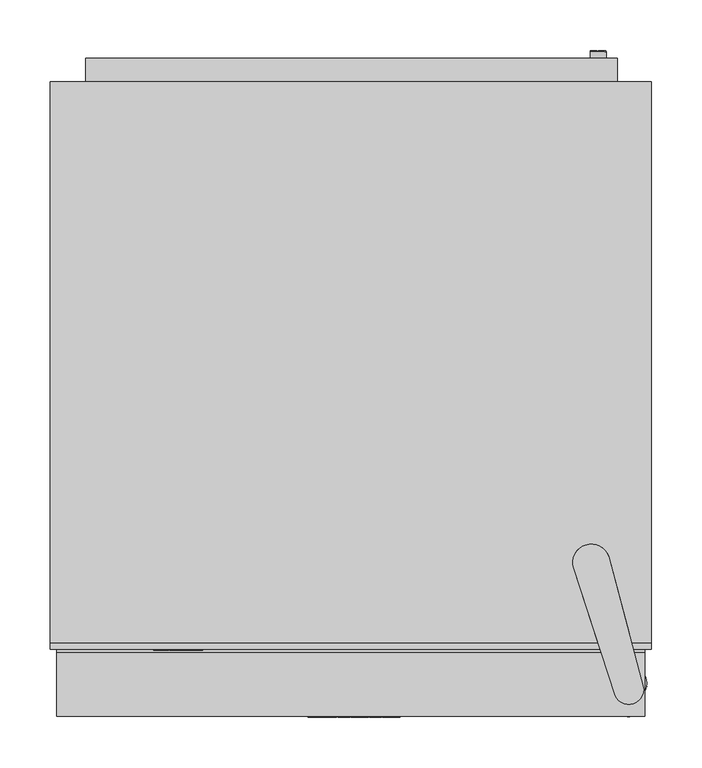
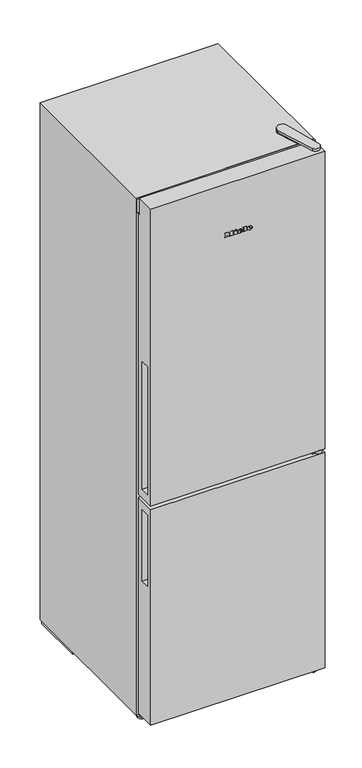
"""IFC4 building model written with IfcOpenShell, lengths in millimetres: proxy geometry, 12108900_OER_KD4172E_EL : 38417251_OER_12108900_KD4172E_EL."""

from ifc_helpers import new_model, si_unit, point, frame, frame_2d, origin, origin_with_axes, place, context, project, spatial, polyline, circle_curve, ellipse_curve, trimmed, segment, composite_curve, outline, extrude, faceted_brep, source, transform, mapped, element, save
from ifc_brep_helpers import plane_surface, cylinder_surface, revolved_surface, extruded_surface, advanced_brep


def specialty_equipment_52cad4d4(model_context):
    return source(origin(), model_context, "Body", "SolidModel", [
        advanced_brep(
        [(38.73, -654.0, 1668.515), (38.73, -654.0, 1670.03), (48.765, -654.0, 1670.03), (31.305, -654.0, 1670.03), (35.43, -654.0, 1664.96), (48.51, -654.0, 1668.515), (43.98, -654.0, 1668.515), (40.41, -654.0, 1666.835), (38.73, -654.0, 1671.95), (38.73, -654.0, 1673.585), (41.295, -654.0, 1673.585), (41.295, -654.0, 1671.95), (38.73, -653.0, 1668.515), (40.41, -653.0, 1666.835), (43.98, -653.0, 1668.515), (48.51, -653.0, 1668.515), (35.43, -653.0, 1664.96), (31.305, -653.0, 1670.03), (48.765, -653.0, 1670.03), (38.73, -653.0, 1670.03), (38.73, -653.0, 1671.95), (41.295, -653.0, 1671.95), (41.295, -653.0, 1673.585), (38.73, -653.0, 1673.585)],
        [
            (0, 1),
            (1, 2),
            (2, 3, ellipse_curve(frame((40.035, -654.0, 1670.03), z_axis=(0.0, -1.0, 0.0), x_axis=(-1.0, 0.0, 0.0)), 8.73, 7.215)),
            (3, 4, circle_curve(frame((37.1100818, -654.0, 1670.54), z_axis=(0.0, -1.0, 0.0), x_axis=(0.0, 0.0, -1.0)), 5.8274415)),
            (4, 5, circle_curve(frame((39.860238, -654.0, 1674.5), z_axis=(0.0, -1.0, 0.0), x_axis=(0.0, 0.0, -1.0)), 10.5184889)),
            (5, 6),
            (6, 7, circle_curve(frame((41.1432353, -654.0, 1669.91), z_axis=(0.0, 1.0, 0.0), x_axis=(0.0, 0.0, -1.0)), 3.1612116)),
            (7, 0, circle_curve(frame((40.41, -654.0, 1668.515), z_axis=(0.0, 1.0, 0.0), x_axis=(0.0, 0.0, -1.0)), 1.68)),
            (8, 9),
            (9, 10, circle_curve(frame((40.0125, -654.0, 1673.585), z_axis=(0.0, 1.0, 0.0), x_axis=(0.0, 0.0, -1.0)), 1.2825)),
            (10, 11),
            (11, 8),
            (12, 13, circle_curve(frame((40.41, -653.0, 1668.515), z_axis=(0.0, -1.0, 0.0), x_axis=(0.0, 0.0, -1.0)), 1.68)),
            (13, 14, circle_curve(frame((41.1432353, -653.0, 1669.91), z_axis=(0.0, -1.0, 0.0), x_axis=(0.0, 0.0, -1.0)), 3.1612116)),
            (14, 15),
            (15, 16, circle_curve(frame((39.860238, -653.0, 1674.5), z_axis=(0.0, 1.0, 0.0), x_axis=(0.0, 0.0, -1.0)), 10.5184889)),
            (16, 17, circle_curve(frame((37.1100818, -653.0, 1670.54), z_axis=(0.0, 1.0, 0.0), x_axis=(0.0, 0.0, -1.0)), 5.8274415)),
            (17, 18, ellipse_curve(frame((40.035, -653.0, 1670.03), z_axis=(0.0, 1.0, 0.0), x_axis=(-1.0, 0.0, 0.0)), 8.73, 7.215)),
            (18, 19),
            (19, 12),
            (20, 21),
            (21, 22),
            (22, 23, circle_curve(frame((40.0125, -653.0, 1673.585), z_axis=(0.0, -1.0, 0.0), x_axis=(0.0, 0.0, -1.0)), 1.2825)),
            (23, 20),
            (0, 12),
            (19, 1),
            (18, 2),
            (5, 15),
            (14, 6),
            (17, 3),
            (13, 7),
            (16, 4),
            (8, 20),
            (23, 9),
            (22, 10),
            (21, 11),
        ],
        [
            plane_surface(frame((38.73, -654.0, 1670.03), z_axis=(0.0, -1.0, 0.0), x_axis=(0.0, 0.0, 1.0))),
            plane_surface(frame((38.73, -653.0, 1670.03), z_axis=(0.0, 1.0, 0.0), x_axis=(0.0, 0.0, -1.0))),
            plane_surface(frame((38.73, -654.0, 1668.515), z_axis=(1.0, 0.0, 0.0), x_axis=(0.0, 1.0, 0.0))),
            plane_surface(frame((38.73, -654.0, 1670.03), z_axis=(0.0, 0.0, -1.0), x_axis=(0.0, 1.0, 0.0))),
            plane_surface(frame((48.51, -654.0, 1668.515), z_axis=(0.0, 0.0, 1.0), x_axis=(0.0, 1.0, 0.0))),
            extruded_surface(trimmed(ellipse_curve(frame((40.035, -652.0, 1670.03), z_axis=(0.0, -1.0, 0.0), x_axis=(-1.0, 0.0, 0.0)), 8.73, 7.215), [point((48.765, -652.0, 1670.03))], [point((31.305, -652.0, 1670.03))], True, "CARTESIAN"), (0.0, -1.0, 0.0), 1.0),
            revolved_surface(polyline([(41.1432353, -653.0, 1666.7487884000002), (41.1432353, -654.0, 1666.7487884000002)]), (41.1432353, -653.0, 1669.91), (0.0, 1.0, 0.0)),
            revolved_surface(polyline([(40.41, -653.0, 1666.835), (40.41, -654.0, 1666.835)]), (40.41, -653.0, 1668.515), (0.0, 1.0, 0.0)),
            cylinder_surface(frame((37.1100818, -653.0, 1670.54), z_axis=(0.0, -1.0, 0.0), x_axis=(0.0, 0.0, -1.0)), 5.8274415),
            cylinder_surface(frame((39.860238, -653.0, 1674.5), z_axis=(0.0, -1.0, 0.0), x_axis=(0.0, 0.0, -1.0)), 10.5184889),
            plane_surface(frame((38.73, -654.0, 1671.95), z_axis=(1.0, 0.0, 0.0), x_axis=(0.0, 1.0, 0.0))),
            revolved_surface(polyline([(40.0125, -653.0, 1672.3025), (40.0125, -654.0, 1672.3025)]), (40.0125, -653.0, 1673.585), (0.0, 1.0, 0.0)),
            plane_surface(frame((41.295, -654.0, 1673.585), z_axis=(-1.0, 0.0, 0.0), x_axis=(0.0, 1.0, 0.0))),
            plane_surface(frame((41.295, -654.0, 1671.95), z_axis=(0.0, 0.0, 1.0), x_axis=(0.0, 1.0, 0.0))),
        ],
        [
            (0, [[1, 2, 3, 4, 5, 6, 7, 8], [9, 10, 11, 12]]),
            (1, [[13, 14, 15, 16, 17, 18, 19, 20], [21, 22, 23, 24]]),
            (2, [[-1, 25, -20, 26]]),
            (3, [[-2, -26, -19, 27]]),
            (4, [[-6, 28, -15, 29]]),
            (5, [[-3, -27, -18, 30]]),
            (6, [[-7, -29, -14, 31]]),
            (7, [[-8, -31, -13, -25]]),
            (8, [[-4, -30, -17, 32]]),
            (9, [[-5, -32, -16, -28]]),
            (10, [[-9, 33, -24, 34]]),
            (11, [[-10, -34, -23, 35]]),
            (12, [[-11, -35, -22, 36]]),
            (13, [[-12, -36, -21, -33]]),
        ],
    ),
        advanced_brep(
        [(7.425, -654.0, 1668.515), (7.425, -654.0, 1670.03), (17.46, -654.0, 1670.03), (0.0, -654.0, 1670.03), (4.125, -654.0, 1664.96), (17.205, -654.0, 1668.515), (12.675, -654.0, 1668.515), (9.105, -654.0, 1666.835), (7.425, -654.0, 1671.95), (7.425, -654.0, 1673.585), (9.99, -654.0, 1673.585), (9.99, -654.0, 1671.95), (7.425, -653.0, 1668.515), (9.105, -653.0, 1666.835), (12.675, -653.0, 1668.515), (17.205, -653.0, 1668.515), (4.125, -653.0, 1664.96), (0.0, -653.0, 1670.03), (17.46, -653.0, 1670.03), (7.425, -653.0, 1670.03), (7.425, -653.0, 1671.95), (9.99, -653.0, 1671.95), (9.99, -653.0, 1673.585), (7.425, -653.0, 1673.585)],
        [
            (0, 1),
            (1, 2),
            (2, 3, ellipse_curve(frame((8.73, -654.0, 1670.03), z_axis=(0.0, -1.0, 0.0), x_axis=(-1.0, 0.0, 0.0)), 8.73, 7.215)),
            (3, 4, circle_curve(frame((5.8050818, -654.0, 1670.54), z_axis=(0.0, -1.0, 0.0), x_axis=(0.0, 0.0, -1.0)), 5.8274415)),
            (4, 5, circle_curve(frame((8.555238, -654.0, 1674.5), z_axis=(0.0, -1.0, 0.0), x_axis=(0.0, 0.0, -1.0)), 10.5184889)),
            (5, 6),
            (6, 7, circle_curve(frame((9.8382353, -654.0, 1669.91), z_axis=(0.0, 1.0, 0.0), x_axis=(0.0, 0.0, -1.0)), 3.1612116)),
            (7, 0, circle_curve(frame((9.105, -654.0, 1668.515), z_axis=(0.0, 1.0, 0.0), x_axis=(0.0, 0.0, -1.0)), 1.68)),
            (8, 9),
            (9, 10, circle_curve(frame((8.7075, -654.0, 1673.585), z_axis=(0.0, 1.0, 0.0), x_axis=(0.0, 0.0, -1.0)), 1.2825)),
            (10, 11),
            (11, 8),
            (12, 13, circle_curve(frame((9.105, -653.0, 1668.515), z_axis=(0.0, -1.0, 0.0), x_axis=(0.0, 0.0, -1.0)), 1.68)),
            (13, 14, circle_curve(frame((9.8382353, -653.0, 1669.91), z_axis=(0.0, -1.0, 0.0), x_axis=(0.0, 0.0, -1.0)), 3.1612116)),
            (14, 15),
            (15, 16, circle_curve(frame((8.555238, -653.0, 1674.5), z_axis=(0.0, 1.0, 0.0), x_axis=(0.0, 0.0, -1.0)), 10.5184889)),
            (16, 17, circle_curve(frame((5.8050818, -653.0, 1670.54), z_axis=(0.0, 1.0, 0.0), x_axis=(0.0, 0.0, -1.0)), 5.8274415)),
            (17, 18, ellipse_curve(frame((8.73, -653.0, 1670.03), z_axis=(0.0, 1.0, 0.0), x_axis=(-1.0, 0.0, 0.0)), 8.73, 7.215)),
            (18, 19),
            (19, 12),
            (20, 21),
            (21, 22),
            (22, 23, circle_curve(frame((8.7075, -653.0, 1673.585), z_axis=(0.0, -1.0, 0.0), x_axis=(0.0, 0.0, -1.0)), 1.2825)),
            (23, 20),
            (0, 12),
            (19, 1),
            (18, 2),
            (5, 15),
            (14, 6),
            (17, 3),
            (13, 7),
            (16, 4),
            (8, 20),
            (23, 9),
            (22, 10),
            (21, 11),
        ],
        [
            plane_surface(frame((7.425, -654.0, 1670.03), z_axis=(0.0, -1.0, 0.0), x_axis=(0.0, 0.0, 1.0))),
            plane_surface(frame((7.425, -653.0, 1670.03), z_axis=(0.0, 1.0, 0.0), x_axis=(0.0, 0.0, -1.0))),
            plane_surface(frame((7.425, -654.0, 1668.515), z_axis=(1.0, 0.0, 0.0), x_axis=(0.0, 1.0, 0.0))),
            plane_surface(frame((7.425, -654.0, 1670.03), z_axis=(0.0, 0.0, -1.0), x_axis=(0.0, 1.0, 0.0))),
            plane_surface(frame((17.205, -654.0, 1668.515), z_axis=(0.0, 0.0, 1.0), x_axis=(0.0, 1.0, 0.0))),
            extruded_surface(trimmed(ellipse_curve(frame((8.73, -652.0, 1670.03), z_axis=(0.0, -1.0, 0.0), x_axis=(-1.0, 0.0, 0.0)), 8.73, 7.215), [point((17.46, -652.0, 1670.03))], [point((0.0, -652.0, 1670.03))], True, "CARTESIAN"), (0.0, -1.0, 0.0), 1.0),
            revolved_surface(polyline([(9.8382353, -653.0, 1666.7487884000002), (9.8382353, -654.0, 1666.7487884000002)]), (9.8382353, -653.0, 1669.91), (0.0, 1.0, 0.0)),
            revolved_surface(polyline([(9.105, -653.0, 1666.835), (9.105, -654.0, 1666.835)]), (9.105, -653.0, 1668.515), (0.0, 1.0, 0.0)),
            cylinder_surface(frame((5.8050818, -653.0, 1670.54), z_axis=(0.0, -1.0, 0.0), x_axis=(0.0, 0.0, -1.0)), 5.8274415),
            cylinder_surface(frame((8.555238, -653.0, 1674.5), z_axis=(0.0, -1.0, 0.0), x_axis=(0.0, 0.0, -1.0)), 10.5184889),
            plane_surface(frame((7.425, -654.0, 1671.95), z_axis=(1.0, 0.0, 0.0), x_axis=(0.0, 1.0, 0.0))),
            revolved_surface(polyline([(8.7075, -653.0, 1672.3025), (8.7075, -654.0, 1672.3025)]), (8.7075, -653.0, 1673.585), (0.0, 1.0, 0.0)),
            plane_surface(frame((9.99, -654.0, 1673.585), z_axis=(-1.0, 0.0, 0.0), x_axis=(0.0, 1.0, 0.0))),
            plane_surface(frame((9.99, -654.0, 1671.95), z_axis=(0.0, 0.0, 1.0), x_axis=(0.0, 1.0, 0.0))),
        ],
        [
            (0, [[1, 2, 3, 4, 5, 6, 7, 8], [9, 10, 11, 12]]),
            (1, [[13, 14, 15, 16, 17, 18, 19, 20], [21, 22, 23, 24]]),
            (2, [[-1, 25, -20, 26]]),
            (3, [[-2, -26, -19, 27]]),
            (4, [[-6, 28, -15, 29]]),
            (5, [[-3, -27, -18, 30]]),
            (6, [[-7, -29, -14, 31]]),
            (7, [[-8, -31, -13, -25]]),
            (8, [[-4, -30, -17, 32]]),
            (9, [[-5, -32, -16, -28]]),
            (10, [[-9, 33, -24, 34]]),
            (11, [[-10, -34, -23, 35]]),
            (12, [[-11, -35, -22, 36]]),
            (13, [[-12, -36, -21, -33]]),
        ],
    ),
        extrude(outline(polyline([(1679.075, -8.97), (1676.645, -7.83), (1679.015, -2.745), (1681.445, -3.87), (1679.075, -8.97)])), frame((0.0, -654.0, 0.0), z_axis=(0.0, 1.0, 0.0), x_axis=(0.0, 0.0, 1.0)), (0.0, 0.0, 1.0), 1.0),
        extrude(outline(polyline([(1676.315, -12.675), (1673.63, -12.675), (1673.63, -10.89), (1667.48, -10.89), (1667.48, -12.675), (1664.96, -12.675), (1664.96, -0.84), (1667.48, -0.84), (1667.48, -2.58), (1676.315, -2.58), (1676.315, -12.675)])), frame((0.0, -654.0, 0.0), z_axis=(0.0, 1.0, 0.0), x_axis=(0.0, 0.0, 1.0)), (0.0, 0.0, 1.0), 1.0),
        extrude(outline(polyline([(1677.515, 18.3), (1677.515, 20.1), (1667.48, 20.1), (1667.48, 18.3), (1664.96, 18.3), (1664.96, 30.465), (1667.48, 30.465), (1667.48, 28.62), (1679.96, 28.62), (1679.96, 18.3), (1677.515, 18.3)])), frame((0.0, -654.0, 0.0), z_axis=(0.0, 1.0, 0.0), x_axis=(0.0, 0.0, 1.0)), (0.0, 0.0, 1.0), 1.0),
        extrude(outline(polyline([(1677.515, -42.57), (1677.515, -40.755), (1667.48, -40.755), (1667.48, -42.57), (1664.96, -42.57), (1664.96, -35.97), (1667.48, -35.97), (1667.48, -37.77), (1673.8161247, -37.77), (1664.96, -31.065), (1674.1502223, -24.33), (1667.48, -24.33), (1667.48, -26.175), (1664.96, -26.175), (1664.96, -14.205), (1667.48, -14.205), (1667.48, -16.11), (1677.515, -16.11), (1677.515, -14.205), (1679.96, -14.205), (1679.96, -23.34), (1674.335, -27.72), (1679.96, -32.115), (1679.96, -42.57), (1677.515, -42.57)])), frame((0.0, -654.0, 0.0), z_axis=(0.0, 1.0, 0.0), x_axis=(0.0, 0.0, 1.0)), (0.0, 0.0, 1.0), 1.0),
        faceted_brep([(298.5, -23.0, 1850.0), (-298.5, -23.0, 1850.0), (-298.5, -580.0, 1850.0), (298.5, -580.0, 1850.0), (298.5, -23.0, 19.0), (298.5, -580.0, 19.0), (-298.5, -580.0, 19.0), (-298.5, -23.0, 19.0), (-234.0, -580.0, 1766.0), (234.0, -580.0, 1766.0), (234.0, -580.0, 827.0), (-234.0, -580.0, 827.0), (-234.0, -580.0, 733.0), (234.0, -580.0, 733.0), (234.0, -580.0, 109.0), (-234.0, -580.0, 109.0), (-234.0, -63.0, 1766.0), (234.0, -63.0, 1766.0), (234.0, -63.0, 827.0), (-234.0, -63.0, 827.0), (-234.0, -63.0, 733.0), (234.0, -63.0, 733.0), (234.0, -63.0, 109.0), (-234.0, -63.0, 109.0)], [[[0, 1, 2, 3]], [[4, 5, 6, 7]], [[1, 0, 4, 7]], [[2, 1, 7, 6]], [[3, 2, 6, 5], [8, 9, 10, 11], [12, 13, 14, 15]], [[0, 3, 5, 4]], [[16, 17, 9, 8]], [[18, 19, 11, 10]], [[17, 16, 19, 18]], [[19, 16, 8, 11]], [[17, 18, 10, 9]], [[20, 21, 13, 12]], [[22, 23, 15, 14]], [[21, 20, 23, 22]], [[23, 20, 12, 15]], [[21, 22, 14, 13]]]),
        extrude(outline(composite_curve([segment(polyline([(-56.420729, 6.1484915), (-39.9901847, 6.1484915)]), True, "CONTINUOUS"), segment(trimmed(circle_curve(frame_2d((-48.2054569, 8.6902384)), 8.5994869), [point((-39.9901847, 6.1484915))], [point((-56.420729, 6.1484915))], False, "CARTESIAN"), True, "CONTINUOUS")], self_intersect=False)), frame((264.4820102, 0.0, 0.0), z_axis=(1.0, 0.0, 0.0), x_axis=(0.0, 1.0, 0.0)), (0.0, 0.0, 1.0), 17.0656722),
        extrude(outline(composite_curve([segment(trimmed(circle_curve(frame_2d((-274.5, -569.6105025)), 7.4374754), [point((-281.9374754, -569.6105025))], [point((-267.0625246, -569.6105025))], False, "CARTESIAN"), True, "CONTINUOUS"), segment(trimmed(circle_curve(frame_2d((-274.5, -569.6105025)), 7.4374754), [point((-267.0625246, -569.6105025))], [point((-281.9374754, -569.6105025))], False, "CARTESIAN"), True, "CONTINUOUS")], self_intersect=False)), frame((0.0, 0.0, 6.1484915), z_axis=(0.0, 0.0, 1.0), x_axis=(1.0, 0.0, 0.0)), (0.0, 0.0, 1.0), 12.8515085),
        extrude(outline(composite_curve([segment(trimmed(circle_curve(frame_2d((-274.5, -569.7060517)), 12.797253), [point((-287.297253, -569.7060517))], [point((-261.702747, -569.7060517))], False, "CARTESIAN"), True, "CONTINUOUS"), segment(trimmed(circle_curve(frame_2d((-274.5, -569.7060517)), 12.797253), [point((-261.702747, -569.7060517))], [point((-287.297253, -569.7060517))], False, "CARTESIAN"), True, "CONTINUOUS")], self_intersect=False)), origin_with_axes(), (0.0, 0.0, 1.0), 6.1484915),
        extrude(outline(polyline([(298.5, -586.4996489), (-298.5, -586.4996489), (-298.5, -580.0), (298.5, -580.0), (298.5, -586.4996489)])), frame((0.0, 0.0, 1801.2229618), z_axis=(0.0, 0.0, 1.0), x_axis=(1.0, 0.0, 0.0)), (0.0, 0.0, 1.0), 48.7770382),
        extrude(outline(polyline([(277.7112582, -200.120515), (251.0987637, -200.120515), (251.0987637, -87.2190022), (277.7112582, -87.2190022), (277.7112582, -200.120515)])), origin_with_axes(), (0.0, 0.0, 1.0), 6.1484915),
        extrude(outline(polyline([(251.0987637, -26.8205259), (291.0987637, -26.8205259), (291.0987637, -206.6206354), (251.0987637, -206.6206354), (251.0987637, -26.8205259)])), frame((0.0, 0.0, 6.1484915), z_axis=(0.0, 0.0, 1.0), x_axis=(1.0, 0.0, 0.0)), (0.0, 0.0, 1.0), 12.8515085),
        extrude(outline(composite_curve([segment(polyline([(-56.420729, 6.1484915), (-39.9901847, 6.1484915)]), True, "CONTINUOUS"), segment(trimmed(circle_curve(frame_2d((-48.2054569, 8.6902384)), 8.5994869), [point((-39.9901847, 6.1484915))], [point((-56.420729, 6.1484915))], False, "CARTESIAN"), True, "CONTINUOUS")], self_intersect=False)), frame((-281.5476824, 0.0, 0.0), z_axis=(1.0, 0.0, 0.0), x_axis=(0.0, 1.0, 0.0)), (0.0, 0.0, 1.0), 17.0656722),
        extrude(outline(polyline([(-277.7112582, -200.120515), (-277.7112582, -87.2190022), (-252.7112582, -87.2190022), (-252.7112582, -200.120515), (-277.7112582, -200.120515)])), origin_with_axes(), (0.0, 0.0, 1.0), 6.1484915),
        extrude(outline(polyline([(-252.7112582, -26.8205259), (-252.7112582, -206.6206354), (-295.0984336, -206.6206354), (-295.0984336, -26.8205259), (-252.7112582, -26.8205259)])), frame((0.0, 0.0, 6.1484915), z_axis=(0.0, 0.0, 1.0), x_axis=(1.0, 0.0, 0.0)), (0.0, 0.0, 1.0), 12.8515085),
        extrude(outline(polyline([(244.9015664, -32.3201), (244.9015664, -206.6206354), (-245.4999985, -206.6206354), (-245.4999985, -32.3201), (244.9015664, -32.3201)])), frame((0.0, 0.0, 6.1484915), z_axis=(0.0, 0.0, 1.0), x_axis=(1.0, 0.0, 0.0)), (0.0, 0.0, 1.0), 12.8515085),
        extrude(outline(polyline([(264.8461624, -23.0), (-263.5, -23.0), (-263.5, 0.0), (264.8461624, 0.0), (264.8461624, -23.0)])), frame((0.0, 0.0, 231.5932438), z_axis=(0.0, 0.0, 1.0), x_axis=(1.0, 0.0, 0.0)), (0.0, 0.0, 1.0), 1494.4067562),
        extrude(outline(polyline([(168.0, 253.3772603), (178.045631, 253.3772603), (178.045631, 246.156963), (176.7899271, 246.156963), (176.7899271, 252.1215564), (173.8076304, 252.1215564), (173.8076304, 246.470889), (172.5519266, 246.470889), (172.5519266, 252.1215564), (169.2557039, 252.1215564), (169.2557039, 246.0), (168.0, 246.0), (168.0, 253.3772603)])), frame((0.0, 7.0, 0.0), z_axis=(0.0, 1.0, 0.0), x_axis=(0.0, 0.0, 1.0)), (0.0, 0.0, 1.0), 1.0),
        extrude(outline(polyline([(168.0, 244.1164442), (178.045631, 244.1164442), (178.045631, 242.8607403), (169.2557039, 242.8607403), (169.2557039, 237.8379248), (168.0, 237.8379248), (168.0, 244.1164442)])), frame((0.0, 7.0, 0.0), z_axis=(0.0, 1.0, 0.0), x_axis=(0.0, 0.0, 1.0)), (0.0, 0.0, 1.0), 1.0),
        extrude(outline(composite_curve([segment(trimmed(circle_curve(frame_2d((173.0, 246.0)), 8.0), [point((173.0, 238.0))], [point((173.0, 254.0))], False, "CARTESIAN"), True, "CONTINUOUS"), segment(trimmed(circle_curve(frame_2d((173.0, 246.0)), 8.0), [point((173.0, 254.0))], [point((173.0, 238.0))], False, "CARTESIAN"), True, "CONTINUOUS")], self_intersect=False)), frame((0.0, -23.0, 0.0), z_axis=(0.0, 1.0, 0.0), x_axis=(0.0, 0.0, 1.0)), (0.0, 0.0, 1.0), 30.0),
        extrude(outline(polyline([(255.1369404, -644.0500518), (255.1369404, -589.0), (292.0, -589.0), (292.0, -629.2312633), (263.6572781, -629.2312633), (263.6572781, -644.0500518), (255.1369404, -644.0500518)])), frame((0.0, 0.0, 788.0), z_axis=(0.0, 0.0, 1.0), x_axis=(1.0, 0.0, 0.0)), (0.0, 0.0, 1.0), 11.7998428),
        extrude(outline(composite_curve([segment(trimmed(circle_curve(frame_2d((276.0, -641.3479469)), 12.0), [point((264.0, -641.3479469))], [point((288.0, -641.3479469))], False, "CARTESIAN"), True, "CONTINUOUS"), segment(trimmed(circle_curve(frame_2d((276.0, -641.3479469)), 12.0), [point((288.0, -641.3479469))], [point((264.0, -641.3479469))], False, "CARTESIAN"), True, "CONTINUOUS")], self_intersect=False)), frame((0.0, 0.0, 788.0), z_axis=(0.0, 0.0, 1.0), x_axis=(1.0, 0.0, 0.0)), (0.0, 0.0, 1.0), 11.7998428),
        faceted_brep([(292.0, -653.0, 788.0), (-292.0, -653.0, 788.0), (-292.0, -653.0, 24.0), (292.0, -653.0, 24.0), (292.0, -580.0, 788.0), (292.0, -580.0, 24.0), (-292.0, -580.0, 24.0), (-292.0, -580.0, 788.0), (-292.0, -635.0, 758.0), (-292.0, -635.0, 506.0121804), (-292.0, -604.4897883, 506.0121804), (-292.0, -604.4897883, 758.0), (-268.2740132, -635.0, 758.0), (-268.2740132, -604.4897883, 758.0), (-268.2740132, -604.4897883, 506.0121804), (-268.2740132, -635.0, 506.0121804)], [[[0, 1, 2, 3]], [[4, 5, 6, 7]], [[1, 0, 4, 7]], [[2, 1, 7, 6], [8, 9, 10, 11]], [[3, 2, 6, 5]], [[0, 3, 5, 4]], [[12, 13, 14, 15]], [[12, 15, 9, 8]], [[15, 14, 10, 9]], [[14, 13, 11, 10]], [[13, 12, 8, 11]]]),
        extrude(outline(composite_curve([segment(trimmed(circle_curve(frame_2d((255.0, -586.0)), 13.0), [point((242.0, -586.0))], [point((268.0, -586.0))], False, "CARTESIAN"), True, "CONTINUOUS"), segment(trimmed(circle_curve(frame_2d((255.0, -586.0)), 13.0), [point((268.0, -586.0))], [point((242.0, -586.0))], False, "CARTESIAN"), True, "CONTINUOUS")], self_intersect=False)), origin_with_axes(), (0.0, 0.0, 1.0), 6.9998158),
        extrude(outline(composite_curve([segment(trimmed(circle_curve(frame_2d((276.9946442, -619.9124361)), 17.0), [point((259.9946442, -619.9124361))], [point((293.9946442, -619.9124361))], False, "CARTESIAN"), True, "CONTINUOUS"), segment(trimmed(circle_curve(frame_2d((276.9946442, -619.9124361)), 17.0), [point((293.9946442, -619.9124361))], [point((259.9946442, -619.9124361))], False, "CARTESIAN"), True, "CONTINUOUS")], self_intersect=False)), frame((0.0, 0.0, 18.8964761), z_axis=(0.0, 0.0, 1.0), x_axis=(1.0, 0.0, 0.0)), (0.0, 0.0, 1.0), 5.1035239),
        extrude(outline(polyline([(294.0677389, -623.5579978), (264.4272141, -637.8371511), (205.1568838, -531.0918017), (240.1598028, -511.6564392), (294.0677389, -623.5579978)])), frame((0.0, 0.0, 6.9998158), z_axis=(0.0, 0.0, 1.0), x_axis=(1.0, 0.0, 0.0)), (0.0, 0.0, 1.0), 11.8966603),
        extrude(outline(composite_curve([segment(polyline([(276.4367298, -571.0430426), (245.1616399, -579.2864892), (221.3582255, -506.2033511)]), True, "CONTINUOUS"), segment(trimmed(circle_curve(frame_2d((238.85062, -500.5060216)), 18.3968321), [point((221.3582255, -506.2033511))], [point((256.3428386, -494.8081519))], False, "CARTESIAN"), True, "CONTINUOUS"), segment(polyline([(256.3428386, -494.8081519), (276.4367298, -571.0430426)]), True, "CONTINUOUS")], self_intersect=False)), frame((0.0, 0.0, 1849.9998428), z_axis=(0.0, 0.0, 1.0), x_axis=(1.0, 0.0, 0.0)), (0.0, 0.0, 1.0), 2.8),
        extrude(outline(composite_curve([segment(polyline([(262.5128912, -632.5530567), (221.3582255, -506.2033511)]), True, "CONTINUOUS"), segment(trimmed(circle_curve(frame_2d((238.850532, -500.5057515)), 18.3968321), [point((221.3582255, -506.2033511))], [point((256.3428386, -494.8081519))], False, "CARTESIAN"), True, "CONTINUOUS"), segment(polyline([(256.3428386, -494.8081519), (291.0205136, -626.3729512)]), True, "CONTINUOUS"), segment(trimmed(circle_curve(frame_2d((276.0339956, -626.0831703)), 14.9893193), [point((291.0205136, -626.3729512))], [point((262.5128912, -632.5530567))], False, "CARTESIAN"), True, "CONTINUOUS")], self_intersect=False)), frame((0.0, 0.0, 1852.7998428), z_axis=(0.0, 0.0, 1.0), x_axis=(1.0, 0.0, 0.0)), (0.0, 0.0, 1.0), 9.2001572),
        extrude(outline(polyline([(292.0, -589.0), (162.9885295, -589.0), (162.9885295, -580.0), (292.0, -580.0), (292.0, -589.0)])), frame((0.0, 0.0, 788.0), z_axis=(0.0, 0.0, 1.0), x_axis=(1.0, 0.0, 0.0)), (0.0, 0.0, 1.0), 11.7998428),
        faceted_brep([(292.0, -653.0, 1852.7998428), (-292.0, -653.0, 1852.7998428), (-292.0, -653.0, 799.7998428), (292.0, -653.0, 799.7998428), (292.0, -580.0, 799.7998428), (-292.0, -580.0, 799.7998428), (-292.0, -580.0, 1796.7998428), (292.0, -580.0, 1796.7998428), (292.0, -589.8392038, 1852.7998428), (-292.0, -589.8392038, 1852.7998428), (-292.0, -589.8392038, 1796.7998428), (-292.0, -604.4876108, 831.0997411), (-292.0, -604.4876108, 1283.0), (-292.0, -635.0, 1283.0), (-292.0, -635.0, 831.0997411), (292.0, -589.8392038, 1796.7998428), (-268.2740132, -604.4876108, 831.0997411), (-268.2740132, -635.0, 831.0997411), (-268.2740132, -635.0, 1283.0), (-268.2740132, -604.4876108, 1283.0)], [[[0, 1, 2, 3]], [[4, 5, 6, 7]], [[1, 0, 8, 9]], [[2, 1, 9, 10, 6, 5], [11, 12, 13, 14]], [[3, 2, 5, 4]], [[0, 3, 4, 7, 15, 8]], [[15, 10, 9, 8]], [[10, 15, 7, 6]], [[16, 17, 18, 19]], [[16, 19, 12, 11]], [[19, 18, 13, 12]], [[18, 17, 14, 13]], [[17, 16, 11, 14]]]),
        advanced_brep(
        [(-152.64, -587.4996489, 1823.9054838), (-152.64, -587.4996489, 1824.7134838), (-147.288, -587.4996489, 1824.7134838), (-156.6, -587.4996489, 1824.7134838), (-154.4, -587.4996489, 1822.0094838), (-147.424, -587.4996489, 1823.9054838), (-149.84, -587.4996489, 1823.9054838), (-151.744, -587.4996489, 1823.0094838), (-152.64, -587.4996489, 1825.7374838), (-152.64, -587.4996489, 1826.6094838), (-151.272, -587.4996489, 1826.6094838), (-151.272, -587.4996489, 1825.7374838), (-152.64, -586.4996489, 1823.9054838), (-151.744, -586.4996489, 1823.0094838), (-149.84, -586.4996489, 1823.9054838), (-147.424, -586.4996489, 1823.9054838), (-154.4, -586.4996489, 1822.0094838), (-156.6, -586.4996489, 1824.7134838), (-147.288, -586.4996489, 1824.7134838), (-152.64, -586.4996489, 1824.7134838), (-152.64, -586.4996489, 1825.7374838), (-151.272, -586.4996489, 1825.7374838), (-151.272, -586.4996489, 1826.6094838), (-152.64, -586.4996489, 1826.6094838)],
        [
            (0, 1),
            (1, 2),
            (2, 3, ellipse_curve(frame((-151.944, -587.4996489, 1824.7134838), z_axis=(0.0, -1.0, 0.0), x_axis=(-1.0, 0.0, 0.0)), 4.656, 3.848)),
            (3, 4, circle_curve(frame((-153.5039564, -587.4996489, 1824.9854838), z_axis=(0.0, -1.0, 0.0), x_axis=(0.0, 0.0, -1.0)), 3.1079688)),
            (4, 5, circle_curve(frame((-152.0372064, -587.4996489, 1827.0974838), z_axis=(0.0, -1.0, 0.0), x_axis=(0.0, 0.0, -1.0)), 5.6098607)),
            (5, 6),
            (6, 7, circle_curve(frame((-151.3529412, -587.4996489, 1824.6494838), z_axis=(0.0, 1.0, 0.0), x_axis=(0.0, 0.0, -1.0)), 1.6859795)),
            (7, 0, circle_curve(frame((-151.744, -587.4996489, 1823.9054838), z_axis=(0.0, 1.0, 0.0), x_axis=(0.0, 0.0, -1.0)), 0.896)),
            (8, 9),
            (9, 10, circle_curve(frame((-151.956, -587.4996489, 1826.6094838), z_axis=(0.0, 1.0, 0.0), x_axis=(0.0, 0.0, -1.0)), 0.684)),
            (10, 11),
            (11, 8),
            (12, 13, circle_curve(frame((-151.744, -586.4996489, 1823.9054838), z_axis=(0.0, -1.0, 0.0), x_axis=(0.0, 0.0, -1.0)), 0.896)),
            (13, 14, circle_curve(frame((-151.3529412, -586.4996489, 1824.6494838), z_axis=(0.0, -1.0, 0.0), x_axis=(0.0, 0.0, -1.0)), 1.6859795)),
            (14, 15),
            (15, 16, circle_curve(frame((-152.0372064, -586.4996489, 1827.0974838), z_axis=(0.0, 1.0, 0.0), x_axis=(0.0, 0.0, -1.0)), 5.6098607)),
            (16, 17, circle_curve(frame((-153.5039564, -586.4996489, 1824.9854838), z_axis=(0.0, 1.0, 0.0), x_axis=(0.0, 0.0, -1.0)), 3.1079688)),
            (17, 18, ellipse_curve(frame((-151.944, -586.4996489, 1824.7134838), z_axis=(0.0, 1.0, 0.0), x_axis=(-1.0, 0.0, 0.0)), 4.656, 3.848)),
            (18, 19),
            (19, 12),
            (20, 21),
            (21, 22),
            (22, 23, circle_curve(frame((-151.956, -586.4996489, 1826.6094838), z_axis=(0.0, -1.0, 0.0), x_axis=(0.0, 0.0, -1.0)), 0.684)),
            (23, 20),
            (0, 12),
            (19, 1),
            (18, 2),
            (5, 15),
            (14, 6),
            (17, 3),
            (13, 7),
            (16, 4),
            (8, 20),
            (23, 9),
            (22, 10),
            (21, 11),
        ],
        [
            plane_surface(frame((-152.64, -587.4996489, 1824.7134838), z_axis=(0.0, -1.0, 0.0), x_axis=(0.0, 0.0, 1.0))),
            plane_surface(frame((-152.64, -586.4996489, 1824.7134838), z_axis=(0.0, 1.0, 0.0), x_axis=(0.0, 0.0, -1.0))),
            plane_surface(frame((-152.64, -587.4996489, 1823.9054838), z_axis=(1.0, 0.0, 0.0), x_axis=(0.0, 1.0, 0.0))),
            plane_surface(frame((-152.64, -587.4996489, 1824.7134838), z_axis=(0.0, 0.0, -1.0), x_axis=(0.0, 1.0, 0.0))),
            plane_surface(frame((-147.424, -587.4996489, 1823.9054838), z_axis=(0.0, 0.0, 1.0), x_axis=(0.0, 1.0, 0.0))),
            extruded_surface(trimmed(ellipse_curve(frame((-151.944, -585.4996489, 1824.7134838), z_axis=(0.0, -1.0, 0.0), x_axis=(-1.0, 0.0, 0.0)), 4.656, 3.848), [point((-147.288, -585.4996489, 1824.7134838))], [point((-156.6, -585.4996489, 1824.7134838))], True, "CARTESIAN"), (0.0, -1.0, 0.0), 1.0),
            revolved_surface(polyline([(-151.3529412, -586.4996489, 1822.9635043), (-151.3529412, -587.4996489, 1822.9635043)]), (-151.3529412, -586.4996489, 1824.6494838), (0.0, 1.0, 0.0)),
            revolved_surface(polyline([(-151.744, -586.4996489, 1823.0094838), (-151.744, -587.4996489, 1823.0094838)]), (-151.744, -586.4996489, 1823.9054838), (0.0, 1.0, 0.0)),
            cylinder_surface(frame((-153.5039564, -586.4996489, 1824.9854838), z_axis=(0.0, -1.0, 0.0), x_axis=(0.0, 0.0, -1.0)), 3.1079688),
            cylinder_surface(frame((-152.0372064, -586.4996489, 1827.0974838), z_axis=(0.0, -1.0, 0.0), x_axis=(0.0, 0.0, -1.0)), 5.6098607),
            plane_surface(frame((-152.64, -587.4996489, 1825.7374838), z_axis=(1.0, 0.0, 0.0), x_axis=(0.0, 1.0, 0.0))),
            revolved_surface(polyline([(-151.956, -586.4996489, 1825.9254838), (-151.956, -587.4996489, 1825.9254838)]), (-151.956, -586.4996489, 1826.6094838), (0.0, 1.0, 0.0)),
            plane_surface(frame((-151.272, -587.4996489, 1826.6094838), z_axis=(-1.0, 0.0, 0.0), x_axis=(0.0, 1.0, 0.0))),
            plane_surface(frame((-151.272, -587.4996489, 1825.7374838), z_axis=(0.0, 0.0, 1.0), x_axis=(0.0, 1.0, 0.0))),
        ],
        [
            (0, [[1, 2, 3, 4, 5, 6, 7, 8], [9, 10, 11, 12]]),
            (1, [[13, 14, 15, 16, 17, 18, 19, 20], [21, 22, 23, 24]]),
            (2, [[-1, 25, -20, 26]]),
            (3, [[-2, -26, -19, 27]]),
            (4, [[-6, 28, -15, 29]]),
            (5, [[-3, -27, -18, 30]]),
            (6, [[-7, -29, -14, 31]]),
            (7, [[-8, -31, -13, -25]]),
            (8, [[-4, -30, -17, 32]]),
            (9, [[-5, -32, -16, -28]]),
            (10, [[-9, 33, -24, 34]]),
            (11, [[-10, -34, -23, 35]]),
            (12, [[-11, -35, -22, 36]]),
            (13, [[-12, -36, -21, -33]]),
        ],
    ),
        advanced_brep(
        [(-169.336, -587.4996489, 1823.9054838), (-169.336, -587.4996489, 1824.7134838), (-163.984, -587.4996489, 1824.7134838), (-173.296, -587.4996489, 1824.7134838), (-171.096, -587.4996489, 1822.0094838), (-164.12, -587.4996489, 1823.9054838), (-166.536, -587.4996489, 1823.9054838), (-168.44, -587.4996489, 1823.0094838), (-169.336, -587.4996489, 1825.7374838), (-169.336, -587.4996489, 1826.6094838), (-167.968, -587.4996489, 1826.6094838), (-167.968, -587.4996489, 1825.7374838), (-169.336, -586.4996489, 1823.9054838), (-168.44, -586.4996489, 1823.0094838), (-166.536, -586.4996489, 1823.9054838), (-164.12, -586.4996489, 1823.9054838), (-171.096, -586.4996489, 1822.0094838), (-173.296, -586.4996489, 1824.7134838), (-163.984, -586.4996489, 1824.7134838), (-169.336, -586.4996489, 1824.7134838), (-169.336, -586.4996489, 1825.7374838), (-167.968, -586.4996489, 1825.7374838), (-167.968, -586.4996489, 1826.6094838), (-169.336, -586.4996489, 1826.6094838)],
        [
            (0, 1),
            (1, 2),
            (2, 3, ellipse_curve(frame((-168.64, -587.4996489, 1824.7134838), z_axis=(0.0, -1.0, 0.0), x_axis=(-1.0, 0.0, 0.0)), 4.656, 3.848)),
            (3, 4, circle_curve(frame((-170.1999564, -587.4996489, 1824.9854838), z_axis=(0.0, -1.0, 0.0), x_axis=(0.0, 0.0, -1.0)), 3.1079688)),
            (4, 5, circle_curve(frame((-168.7332064, -587.4996489, 1827.0974838), z_axis=(0.0, -1.0, 0.0), x_axis=(0.0, 0.0, -1.0)), 5.6098607)),
            (5, 6),
            (6, 7, circle_curve(frame((-168.0489412, -587.4996489, 1824.6494838), z_axis=(0.0, 1.0, 0.0), x_axis=(0.0, 0.0, -1.0)), 1.6859795)),
            (7, 0, circle_curve(frame((-168.44, -587.4996489, 1823.9054838), z_axis=(0.0, 1.0, 0.0), x_axis=(0.0, 0.0, -1.0)), 0.896)),
            (8, 9),
            (9, 10, circle_curve(frame((-168.652, -587.4996489, 1826.6094838), z_axis=(0.0, 1.0, 0.0), x_axis=(0.0, 0.0, -1.0)), 0.684)),
            (10, 11),
            (11, 8),
            (12, 13, circle_curve(frame((-168.44, -586.4996489, 1823.9054838), z_axis=(0.0, -1.0, 0.0), x_axis=(0.0, 0.0, -1.0)), 0.896)),
            (13, 14, circle_curve(frame((-168.0489412, -586.4996489, 1824.6494838), z_axis=(0.0, -1.0, 0.0), x_axis=(0.0, 0.0, -1.0)), 1.6859795)),
            (14, 15),
            (15, 16, circle_curve(frame((-168.7332064, -586.4996489, 1827.0974838), z_axis=(0.0, 1.0, 0.0), x_axis=(0.0, 0.0, -1.0)), 5.6098607)),
            (16, 17, circle_curve(frame((-170.1999564, -586.4996489, 1824.9854838), z_axis=(0.0, 1.0, 0.0), x_axis=(0.0, 0.0, -1.0)), 3.1079688)),
            (17, 18, ellipse_curve(frame((-168.64, -586.4996489, 1824.7134838), z_axis=(0.0, 1.0, 0.0), x_axis=(-1.0, 0.0, 0.0)), 4.656, 3.848)),
            (18, 19),
            (19, 12),
            (20, 21),
            (21, 22),
            (22, 23, circle_curve(frame((-168.652, -586.4996489, 1826.6094838), z_axis=(0.0, -1.0, 0.0), x_axis=(0.0, 0.0, -1.0)), 0.684)),
            (23, 20),
            (0, 12),
            (19, 1),
            (18, 2),
            (5, 15),
            (14, 6),
            (17, 3),
            (13, 7),
            (16, 4),
            (8, 20),
            (23, 9),
            (22, 10),
            (21, 11),
        ],
        [
            plane_surface(frame((-169.336, -587.4996489, 1824.7134838), z_axis=(0.0, -1.0, 0.0), x_axis=(0.0, 0.0, 1.0))),
            plane_surface(frame((-169.336, -586.4996489, 1824.7134838), z_axis=(0.0, 1.0, 0.0), x_axis=(0.0, 0.0, -1.0))),
            plane_surface(frame((-169.336, -587.4996489, 1823.9054838), z_axis=(1.0, 0.0, 0.0), x_axis=(0.0, 1.0, 0.0))),
            plane_surface(frame((-169.336, -587.4996489, 1824.7134838), z_axis=(0.0, 0.0, -1.0), x_axis=(0.0, 1.0, 0.0))),
            plane_surface(frame((-164.12, -587.4996489, 1823.9054838), z_axis=(0.0, 0.0, 1.0), x_axis=(0.0, 1.0, 0.0))),
            extruded_surface(trimmed(ellipse_curve(frame((-168.64, -585.4996489, 1824.7134838), z_axis=(0.0, -1.0, 0.0), x_axis=(-1.0, 0.0, 0.0)), 4.656, 3.848), [point((-163.984, -585.4996489, 1824.7134838))], [point((-173.296, -585.4996489, 1824.7134838))], True, "CARTESIAN"), (0.0, -1.0, 0.0), 1.0),
            revolved_surface(polyline([(-168.0489412, -586.4996489, 1822.9635043), (-168.0489412, -587.4996489, 1822.9635043)]), (-168.0489412, -586.4996489, 1824.6494838), (0.0, 1.0, 0.0)),
            revolved_surface(polyline([(-168.44, -586.4996489, 1823.0094838), (-168.44, -587.4996489, 1823.0094838)]), (-168.44, -586.4996489, 1823.9054838), (0.0, 1.0, 0.0)),
            cylinder_surface(frame((-170.1999564, -586.4996489, 1824.9854838), z_axis=(0.0, -1.0, 0.0), x_axis=(0.0, 0.0, -1.0)), 3.1079688),
            cylinder_surface(frame((-168.7332064, -586.4996489, 1827.0974838), z_axis=(0.0, -1.0, 0.0), x_axis=(0.0, 0.0, -1.0)), 5.6098607),
            plane_surface(frame((-169.336, -587.4996489, 1825.7374838), z_axis=(1.0, 0.0, 0.0), x_axis=(0.0, 1.0, 0.0))),
            revolved_surface(polyline([(-168.652, -586.4996489, 1825.9254838), (-168.652, -587.4996489, 1825.9254838)]), (-168.652, -586.4996489, 1826.6094838), (0.0, 1.0, 0.0)),
            plane_surface(frame((-167.968, -587.4996489, 1826.6094838), z_axis=(-1.0, 0.0, 0.0), x_axis=(0.0, 1.0, 0.0))),
            plane_surface(frame((-167.968, -587.4996489, 1825.7374838), z_axis=(0.0, 0.0, 1.0), x_axis=(0.0, 1.0, 0.0))),
        ],
        [
            (0, [[1, 2, 3, 4, 5, 6, 7, 8], [9, 10, 11, 12]]),
            (1, [[13, 14, 15, 16, 17, 18, 19, 20], [21, 22, 23, 24]]),
            (2, [[-1, 25, -20, 26]]),
            (3, [[-2, -26, -19, 27]]),
            (4, [[-6, 28, -15, 29]]),
            (5, [[-3, -27, -18, 30]]),
            (6, [[-7, -29, -14, 31]]),
            (7, [[-8, -31, -13, -25]]),
            (8, [[-4, -30, -17, 32]]),
            (9, [[-5, -32, -16, -28]]),
            (10, [[-9, 33, -24, 34]]),
            (11, [[-10, -34, -23, 35]]),
            (12, [[-11, -35, -22, 36]]),
            (13, [[-12, -36, -21, -33]]),
        ],
    ),
        extrude(outline(polyline([(1829.5374838, -178.08), (1828.2414838, -177.472), (1829.5054838, -174.76), (1830.8014838, -175.36), (1829.5374838, -178.08)])), frame((0.0, -587.4996489, 0.0), z_axis=(0.0, 1.0, 0.0), x_axis=(0.0, 0.0, 1.0)), (0.0, 0.0, 1.0), 1.0),
        extrude(outline(polyline([(1828.0654838, -180.056), (1826.6334838, -180.056), (1826.6334838, -179.104), (1823.3534838, -179.104), (1823.3534838, -180.056), (1822.0094838, -180.056), (1822.0094838, -173.744), (1823.3534838, -173.744), (1823.3534838, -174.672), (1828.0654838, -174.672), (1828.0654838, -180.056)])), frame((0.0, -587.4996489, 0.0), z_axis=(0.0, 1.0, 0.0), x_axis=(0.0, 0.0, 1.0)), (0.0, 0.0, 1.0), 1.0),
        extrude(outline(polyline([(1828.7054838, -163.536), (1828.7054838, -162.576), (1823.3534838, -162.576), (1823.3534838, -163.536), (1822.0094838, -163.536), (1822.0094838, -157.048), (1823.3534838, -157.048), (1823.3534838, -158.032), (1830.0094838, -158.032), (1830.0094838, -163.536), (1828.7054838, -163.536)])), frame((0.0, -587.4996489, 0.0), z_axis=(0.0, 1.0, 0.0), x_axis=(0.0, 0.0, 1.0)), (0.0, 0.0, 1.0), 1.0),
        extrude(outline(polyline([(1828.7054838, -196.0), (1828.7054838, -195.032), (1823.3534838, -195.032), (1823.3534838, -196.0), (1822.0094838, -196.0), (1822.0094838, -192.48), (1823.3534838, -192.48), (1823.3534838, -193.44), (1826.7566086, -193.44), (1822.0094838, -189.864), (1826.8247061, -186.272), (1823.3534838, -186.272), (1823.3534838, -187.256), (1822.0094838, -187.256), (1822.0094838, -180.872), (1823.3534838, -180.872), (1823.3534838, -181.888), (1828.7054838, -181.888), (1828.7054838, -180.872), (1830.0094838, -180.872), (1830.0094838, -185.744), (1827.0094838, -188.08), (1830.0094838, -190.424), (1830.0094838, -196.0), (1828.7054838, -196.0)])), frame((0.0, -587.4996489, 0.0), z_axis=(0.0, 1.0, 0.0), x_axis=(0.0, 0.0, 1.0)), (0.0, 0.0, 1.0), 1.0),
    ])


if __name__ == "__main__":
    model = new_model("IFC4")
    model_context = context("Model", 3, world=origin())
    ifc_project = project(units=[si_unit("LENGTHUNIT", "METRE", prefix="MILLI")], contexts=[model_context])
    site = spatial("IfcSite", under=ifc_project)
    building = spatial("IfcBuilding", under=site)
    placement = place(None, origin())
    specialty_equipment_shape = specialty_equipment_52cad4d4(model_context)
    element("IfcBuildingElementProxy", 1, Name="12108900_OER_KD4172E_EL : 38417251_OER_12108900_KD4172E_EL", ObjectType="12108900_OER_KD4172E_EL : 38417251_OER_12108900_KD4172E_EL", at=placement, inside=building, context=model_context, shape_type="MappedRepresentation", body=[
        mapped(specialty_equipment_shape, transform((0.0, 0.0, 0.0), x_axis=(1.0, 0.0, 0.0), y_axis=(0.0, 1.0, 0.0), z_axis=(0.0, 0.0, 1.0))),
    ])
    save(model, "model.ifc")
